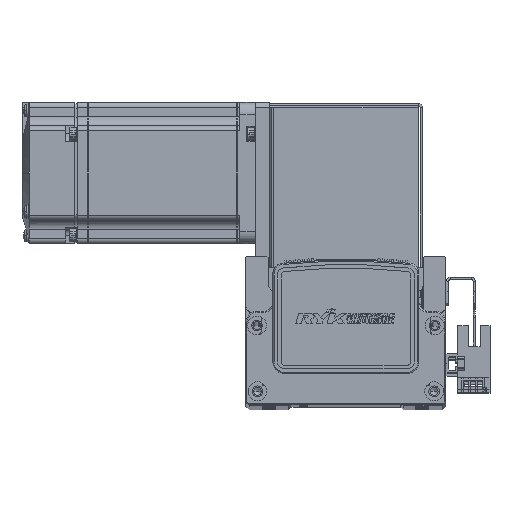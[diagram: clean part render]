
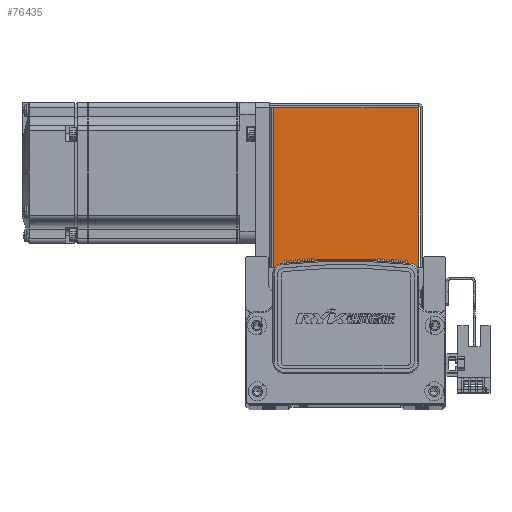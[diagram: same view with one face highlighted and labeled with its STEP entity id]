
A CAD part, top view. The second image highlights one B-rep face of the part: STEP entity #76435.
In plain terms, the highlighted planar face has unit normal (0, 0, 1).
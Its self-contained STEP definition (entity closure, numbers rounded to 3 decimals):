
#3705 = CARTESIAN_POINT ( 'NONE',  ( 0., 68.5, 35. ) ) ;
#3744 = DIRECTION ( 'NONE',  ( -1., 0., 0. ) ) ;
#3792 = CARTESIAN_POINT ( 'NONE',  ( -30.793, 0., 35. ) ) ;
#3795 = CARTESIAN_POINT ( 'NONE',  ( -32.5, 0.737, 35. ) ) ;
#3823 = DIRECTION ( 'NONE',  ( 0., 1., 0. ) ) ;
#3827 = DIRECTION ( 'NONE',  ( -1., 0., 0. ) ) ;
#3847 = CARTESIAN_POINT ( 'NONE',  ( 30.763, 0.737, 35. ) ) ;
#3878 = DIRECTION ( 'NONE',  ( 0., 1., 0. ) ) ;
#13134 = VECTOR ( 'NONE', #3744, 1000. ) ;
#15053 = EDGE_LOOP ( 'NONE', ( #28867, #28725, #28772, #28882 ) ) ;
#15673 = LINE ( 'NONE', #3705, #13134 ) ;
#18176 = CARTESIAN_POINT ( 'NONE',  ( 30.763, 0.737, 35. ) ) ;
#18260 = CARTESIAN_POINT ( 'NONE',  ( -30.793, 68.5, 35. ) ) ;
#18313 = CARTESIAN_POINT ( 'NONE',  ( -30.793, 0.737, 35. ) ) ;
#18336 = CARTESIAN_POINT ( 'NONE',  ( 30.763, 68.5, 35. ) ) ;
#19733 = EDGE_CURVE ( 'NONE', #57087, #57047, #15673, .T. ) ;
#19766 = EDGE_CURVE ( 'NONE', #57013, #57047, #29691, .T. ) ;
#19773 = EDGE_CURVE ( 'NONE', #56961, #57013, #29673, .T. ) ;
#19790 = EDGE_CURVE ( 'NONE', #56961, #57087, #29772, .T. ) ;
#26698 = AXIS2_PLACEMENT_3D ( 'NONE', #28371, #28381, #28379 ) ;
#28364 = PLANE ( 'NONE',  #26698 ) ;
#28371 = CARTESIAN_POINT ( 'NONE',  ( 0., 0., 35. ) ) ;
#28379 = DIRECTION ( 'NONE',  ( -1., 0., 0. ) ) ;
#28381 = DIRECTION ( 'NONE',  ( 0., 0., -1. ) ) ;
#28725 = ORIENTED_EDGE ( 'NONE', *, *, #19733, .T. ) ;
#28772 = ORIENTED_EDGE ( 'NONE', *, *, #19766, .F. ) ;
#28867 = ORIENTED_EDGE ( 'NONE', *, *, #19790, .T. ) ;
#28882 = ORIENTED_EDGE ( 'NONE', *, *, #19773, .F. ) ;
#29661 = VECTOR ( 'NONE', #3827, 1000. ) ;
#29673 = LINE ( 'NONE', #3795, #29661 ) ;
#29691 = LINE ( 'NONE', #3792, #29707 ) ;
#29707 = VECTOR ( 'NONE', #3823, 1000. ) ;
#29730 = VECTOR ( 'NONE', #3878, 1000. ) ;
#29772 = LINE ( 'NONE', #3847, #29730 ) ;
#42803 = FACE_OUTER_BOUND ( 'NONE', #15053, .T. ) ;
#56961 = VERTEX_POINT ( 'NONE', #18176 ) ;
#57013 = VERTEX_POINT ( 'NONE', #18313 ) ;
#57047 = VERTEX_POINT ( 'NONE', #18260 ) ;
#57087 = VERTEX_POINT ( 'NONE', #18336 ) ;
#76435 = ADVANCED_FACE ( 'NONE', ( #42803 ), #28364, .F. ) ;
